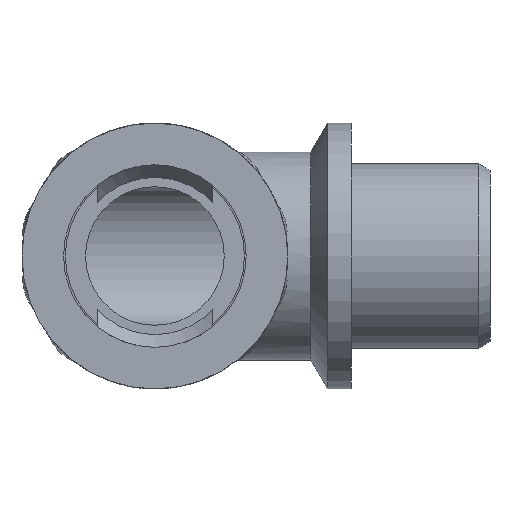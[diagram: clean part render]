
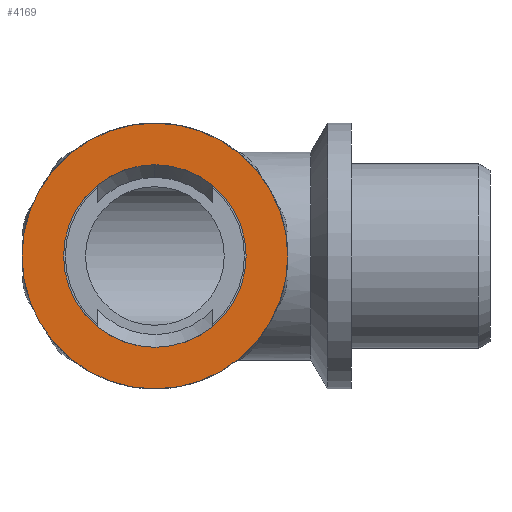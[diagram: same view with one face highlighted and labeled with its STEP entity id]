
A CAD part, front view. The second image highlights one B-rep face of the part: STEP entity #4169.
In plain terms, the highlighted planar face has unit normal (0, -1, 0) as drawn and (0, 1, 0) by its records, which use the part's own axes.
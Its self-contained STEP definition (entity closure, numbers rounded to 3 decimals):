
#1 = CARTESIAN_POINT ( 'NONE',  ( 0., 16.5, 7.9 ) ) ;
#310 = VERTEX_POINT ( 'NONE', #2890 ) ;
#340 = AXIS2_PLACEMENT_3D ( 'NONE', #3846, #3349, #2765 ) ;
#487 = CARTESIAN_POINT ( 'NONE',  ( 0., 16.5, 0. ) ) ;
#818 = CARTESIAN_POINT ( 'NONE',  ( 0., 16.5, 0. ) ) ;
#1077 = CARTESIAN_POINT ( 'NONE',  ( 0., 16.5, 0. ) ) ;
#1112 = ORIENTED_EDGE ( 'NONE', *, *, #4806, .T. ) ;
#1269 = FACE_OUTER_BOUND ( 'NONE', #3337, .T. ) ;
#1326 = CARTESIAN_POINT ( 'NONE',  ( 0., 16.5, -7.9 ) ) ;
#1562 = PLANE ( 'NONE',  #340 ) ;
#1669 = ORIENTED_EDGE ( 'NONE', *, *, #5726, .F. ) ;
#1718 = VERTEX_POINT ( 'NONE', #1326 ) ;
#1982 = DIRECTION ( 'NONE',  ( 0., 0., -1. ) ) ;
#2203 = DIRECTION ( 'NONE',  ( 0., 0., -1. ) ) ;
#2234 = DIRECTION ( 'NONE',  ( 0., 0., -1. ) ) ;
#2266 = ORIENTED_EDGE ( 'NONE', *, *, #4487, .F. ) ;
#2435 = CARTESIAN_POINT ( 'NONE',  ( 0., 16.5, 11.5 ) ) ;
#2482 = AXIS2_PLACEMENT_3D ( 'NONE', #5362, #4231, #4828 ) ;
#2625 = AXIS2_PLACEMENT_3D ( 'NONE', #487, #5082, #2234 ) ;
#2685 = AXIS2_PLACEMENT_3D ( 'NONE', #818, #7124, #1982 ) ;
#2765 = DIRECTION ( 'NONE',  ( 0., 0., 1. ) ) ;
#2890 = CARTESIAN_POINT ( 'NONE',  ( 0., 16.5, -11.5 ) ) ;
#2987 = ORIENTED_EDGE ( 'NONE', *, *, #5828, .T. ) ;
#3337 = EDGE_LOOP ( 'NONE', ( #1669, #2266 ) ) ;
#3349 = DIRECTION ( 'NONE',  ( 0., 1., 0. ) ) ;
#3365 = CIRCLE ( 'NONE', #3843, 11.5 ) ;
#3843 = AXIS2_PLACEMENT_3D ( 'NONE', #1077, #4026, #2203 ) ;
#3846 = CARTESIAN_POINT ( 'NONE',  ( 7.9, 16.5, 0. ) ) ;
#3906 = CIRCLE ( 'NONE', #2685, 7.9 ) ;
#3922 = VERTEX_POINT ( 'NONE', #1 ) ;
#4026 = DIRECTION ( 'NONE',  ( 0., -1., 0. ) ) ;
#4102 = VERTEX_POINT ( 'NONE', #2435 ) ;
#4169 = ADVANCED_FACE ( 'NONE', ( #5095, #1269 ), #1562, .T. ) ;
#4231 = DIRECTION ( 'NONE',  ( 0., -1., 0. ) ) ;
#4375 = CIRCLE ( 'NONE', #2482, 11.5 ) ;
#4487 = EDGE_CURVE ( 'NONE', #4102, #310, #4375, .T. ) ;
#4806 = EDGE_CURVE ( 'NONE', #3922, #1718, #7143, .T. ) ;
#4828 = DIRECTION ( 'NONE',  ( 0., 0., -1. ) ) ;
#5082 = DIRECTION ( 'NONE',  ( 0., -1., 0. ) ) ;
#5095 = FACE_BOUND ( 'NONE', #7477, .T. ) ;
#5362 = CARTESIAN_POINT ( 'NONE',  ( 0., 16.5, 0. ) ) ;
#5726 = EDGE_CURVE ( 'NONE', #310, #4102, #3365, .T. ) ;
#5828 = EDGE_CURVE ( 'NONE', #1718, #3922, #3906, .T. ) ;
#7124 = DIRECTION ( 'NONE',  ( 0., -1., 0. ) ) ;
#7143 = CIRCLE ( 'NONE', #2625, 7.9 ) ;
#7477 = EDGE_LOOP ( 'NONE', ( #2987, #1112 ) ) ;
